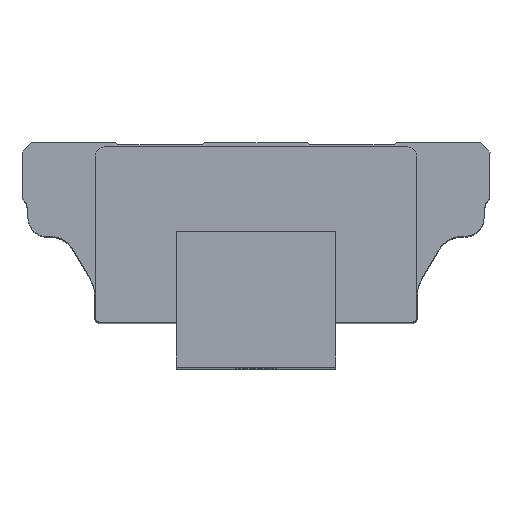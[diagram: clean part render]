
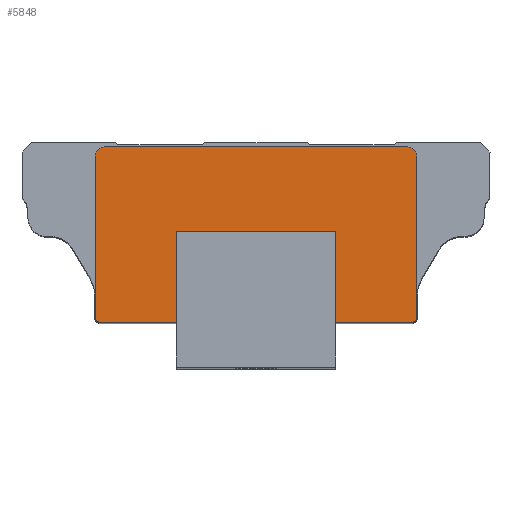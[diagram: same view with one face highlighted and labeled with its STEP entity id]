
A CAD part, top view. The second image highlights one B-rep face of the part: STEP entity #5848.
In plain terms, the highlighted planar face has unit normal (0, 0, 1).
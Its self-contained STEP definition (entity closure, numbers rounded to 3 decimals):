
#5465=CARTESIAN_POINT('',(-16.1,9.6,212.9));
#5466=VERTEX_POINT('',#5465);
#5473=CARTESIAN_POINT('',(-17.4,10.9,212.9));
#5474=VERTEX_POINT('',#5473);
#5475=CARTESIAN_POINT('',(-16.1,10.9,212.9));
#5476=DIRECTION('',(0.0,0.0,-1.0));
#5477=DIRECTION('',(1.0,0.0,0.0));
#5478=AXIS2_PLACEMENT_3D('',#5475,#5476,#5477);
#5479=CIRCLE('',#5478,1.3);
#5480=EDGE_CURVE('',#5466,#5474,#5479,.T.);
#5505=CARTESIAN_POINT('',(-17.4,45.15,212.9));
#5506=VERTEX_POINT('',#5505);
#5507=CARTESIAN_POINT('',(-17.4,10.9,212.9));
#5508=DIRECTION('',(0.0,1.0,0.0));
#5509=VECTOR('',#5508,1.0);
#5510=LINE('',#5507,#5509);
#5511=EDGE_CURVE('',#5474,#5506,#5510,.T.);
#5537=CARTESIAN_POINT('',(-15.4,47.15,212.9));
#5538=VERTEX_POINT('',#5537);
#5539=CARTESIAN_POINT('',(-15.4,45.15,212.9));
#5540=DIRECTION('',(0.0,0.0,-1.0));
#5541=DIRECTION('',(1.0,0.0,0.0));
#5542=AXIS2_PLACEMENT_3D('',#5539,#5540,#5541);
#5543=CIRCLE('',#5542,2.);
#5544=EDGE_CURVE('',#5506,#5538,#5543,.T.);
#5569=CARTESIAN_POINT('',(49.4,47.15,212.9));
#5570=VERTEX_POINT('',#5569);
#5571=CARTESIAN_POINT('',(-15.4,47.15,212.9));
#5572=DIRECTION('',(1.0,0.0,0.0));
#5573=VECTOR('',#5572,1.0);
#5574=LINE('',#5571,#5573);
#5575=EDGE_CURVE('',#5538,#5570,#5574,.T.);
#5601=CARTESIAN_POINT('',(51.4,45.15,212.9));
#5602=VERTEX_POINT('',#5601);
#5603=CARTESIAN_POINT('',(49.4,45.15,212.9));
#5604=DIRECTION('',(0.0,0.0,-1.0));
#5605=DIRECTION('',(1.0,0.0,0.0));
#5606=AXIS2_PLACEMENT_3D('',#5603,#5604,#5605);
#5607=CIRCLE('',#5606,2.);
#5608=EDGE_CURVE('',#5570,#5602,#5607,.T.);
#5633=CARTESIAN_POINT('',(51.4,10.9,212.9));
#5634=VERTEX_POINT('',#5633);
#5635=CARTESIAN_POINT('',(51.4,45.15,212.9));
#5636=DIRECTION('',(0.0,-1.0,0.0));
#5637=VECTOR('',#5636,1.0);
#5638=LINE('',#5635,#5637);
#5639=EDGE_CURVE('',#5602,#5634,#5638,.T.);
#5665=CARTESIAN_POINT('',(50.1,9.6,212.9));
#5666=VERTEX_POINT('',#5665);
#5667=CARTESIAN_POINT('',(50.1,10.9,212.9));
#5668=DIRECTION('',(0.0,0.0,-1.0));
#5669=DIRECTION('',(1.0,0.0,0.0));
#5670=AXIS2_PLACEMENT_3D('',#5667,#5668,#5669);
#5671=CIRCLE('',#5670,1.3);
#5672=EDGE_CURVE('',#5634,#5666,#5671,.T.);
#5697=CARTESIAN_POINT('',(34.0,9.6,212.9));
#5698=VERTEX_POINT('',#5697);
#5699=CARTESIAN_POINT('',(50.1,9.6,212.9));
#5700=DIRECTION('',(-1.0,0.0,0.0));
#5701=VECTOR('',#5700,1.0);
#5702=LINE('',#5699,#5701);
#5703=EDGE_CURVE('',#5666,#5698,#5702,.T.);
#5728=CARTESIAN_POINT('',(34.0,29.0,212.9));
#5729=VERTEX_POINT('',#5728);
#5730=CARTESIAN_POINT('',(34.0,9.6,212.9));
#5731=DIRECTION('',(0.0,1.0,0.0));
#5732=VECTOR('',#5731,1.);
#5733=LINE('',#5730,#5732);
#5734=EDGE_CURVE('',#5698,#5729,#5733,.T.);
#5759=CARTESIAN_POINT('',(0.0,29.0,212.9));
#5760=VERTEX_POINT('',#5759);
#5761=CARTESIAN_POINT('',(34.0,29.0,212.9));
#5762=DIRECTION('',(-1.0,0.0,0.0));
#5763=VECTOR('',#5762,1.0);
#5764=LINE('',#5761,#5763);
#5765=EDGE_CURVE('',#5729,#5760,#5764,.T.);
#5790=CARTESIAN_POINT('',(0.0,9.6,212.9));
#5791=VERTEX_POINT('',#5790);
#5792=CARTESIAN_POINT('',(0.0,29.0,212.9));
#5793=DIRECTION('',(0.0,-1.0,0.0));
#5794=VECTOR('',#5793,1.0);
#5795=LINE('',#5792,#5794);
#5796=EDGE_CURVE('',#5760,#5791,#5795,.T.);
#5819=CARTESIAN_POINT('',(0.0,9.6,212.9));
#5820=DIRECTION('',(-1.0,0.0,0.0));
#5821=VECTOR('',#5820,1.0);
#5822=LINE('',#5819,#5821);
#5823=EDGE_CURVE('',#5791,#5466,#5822,.T.);
#5829=CARTESIAN_POINT('',(-16.1,10.9,212.9));
#5830=DIRECTION('',(0.0,0.0,-1.0));
#5831=DIRECTION('',(-1.0,0.0,0.0));
#5832=AXIS2_PLACEMENT_3D('',#5829,#5830,#5831);
#5833=PLANE('',#5832);
#5834=ORIENTED_EDGE('',*,*,#5480,.F.);
#5835=ORIENTED_EDGE('',*,*,#5823,.F.);
#5836=ORIENTED_EDGE('',*,*,#5796,.F.);
#5837=ORIENTED_EDGE('',*,*,#5765,.F.);
#5838=ORIENTED_EDGE('',*,*,#5734,.F.);
#5839=ORIENTED_EDGE('',*,*,#5703,.F.);
#5840=ORIENTED_EDGE('',*,*,#5672,.F.);
#5841=ORIENTED_EDGE('',*,*,#5639,.F.);
#5842=ORIENTED_EDGE('',*,*,#5608,.F.);
#5843=ORIENTED_EDGE('',*,*,#5575,.F.);
#5844=ORIENTED_EDGE('',*,*,#5544,.F.);
#5845=ORIENTED_EDGE('',*,*,#5511,.F.);
#5846=EDGE_LOOP('',(#5834,#5835,#5836,#5837,#5838,#5839,#5840,#5841,#5842,#5843,#5844,#5845));
#5847=FACE_OUTER_BOUND('',#5846,.T.);
#5848=ADVANCED_FACE('',(#5847),#5833,.F.);
